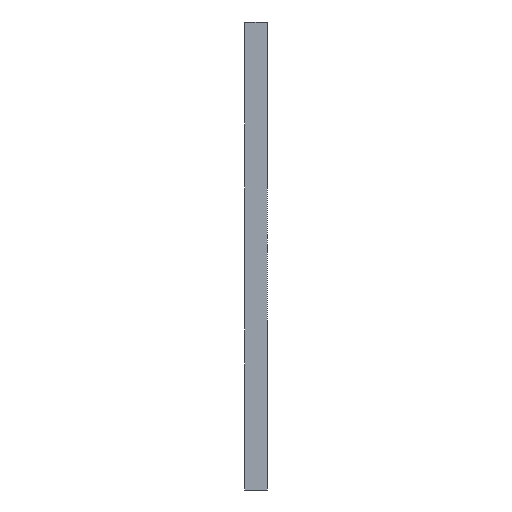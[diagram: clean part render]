
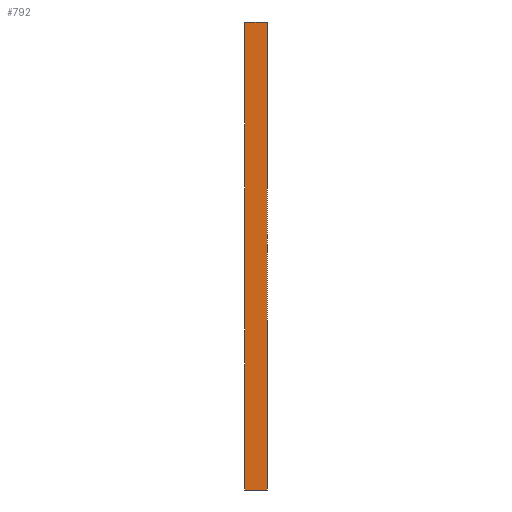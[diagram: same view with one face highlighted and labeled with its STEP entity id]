
A CAD part, left-side view. The second image highlights one B-rep face of the part: STEP entity #792.
In plain terms, the highlighted planar face has unit normal (-1, 0, 0).
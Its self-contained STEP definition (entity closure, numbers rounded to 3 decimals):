
#137 = DIRECTION ( 'NONE',  ( 0., 1., 0. ) ) ;
#142 = VERTEX_POINT ( 'NONE', #1068 ) ;
#199 = VERTEX_POINT ( 'NONE', #280 ) ;
#227 = LINE ( 'NONE', #1094, #773 ) ;
#246 = CARTESIAN_POINT ( 'NONE',  ( -219., -20., -367.5 ) ) ;
#248 = AXIS2_PLACEMENT_3D ( 'NONE', #1046, #606, #265 ) ;
#251 = EDGE_LOOP ( 'NONE', ( #377, #1058, #561, #430 ) ) ;
#260 = LINE ( 'NONE', #246, #916 ) ;
#264 = EDGE_CURVE ( 'NONE', #852, #142, #305, .T. ) ;
#265 = DIRECTION ( 'NONE',  ( 0., 0., 1. ) ) ;
#280 = CARTESIAN_POINT ( 'NONE',  ( -219., 0., -367.5 ) ) ;
#305 = LINE ( 'NONE', #402, #1117 ) ;
#325 = VERTEX_POINT ( 'NONE', #567 ) ;
#377 = ORIENTED_EDGE ( 'NONE', *, *, #712, .F. ) ;
#392 = DIRECTION ( 'NONE',  ( 0., 0., 1. ) ) ;
#402 = CARTESIAN_POINT ( 'NONE',  ( -219., -20., 50. ) ) ;
#423 = EDGE_CURVE ( 'NONE', #325, #199, #260, .T. ) ;
#430 = ORIENTED_EDGE ( 'NONE', *, *, #264, .T. ) ;
#474 = VECTOR ( 'NONE', #539, 1000. ) ;
#539 = DIRECTION ( 'NONE',  ( 0., 0., 1. ) ) ;
#561 = ORIENTED_EDGE ( 'NONE', *, *, #635, .T. ) ;
#567 = CARTESIAN_POINT ( 'NONE',  ( -219., -20., -367.5 ) ) ;
#606 = DIRECTION ( 'NONE',  ( -1., 0., 0. ) ) ;
#635 = EDGE_CURVE ( 'NONE', #325, #852, #227, .T. ) ;
#701 = CARTESIAN_POINT ( 'NONE',  ( -219., -20., 50. ) ) ;
#712 = EDGE_CURVE ( 'NONE', #199, #142, #775, .T. ) ;
#773 = VECTOR ( 'NONE', #392, 1000. ) ;
#775 = LINE ( 'NONE', #1121, #474 ) ;
#792 = ADVANCED_FACE ( 'NONE', ( #1128 ), #929, .T. ) ;
#852 = VERTEX_POINT ( 'NONE', #701 ) ;
#916 = VECTOR ( 'NONE', #937, 1000. ) ;
#929 = PLANE ( 'NONE',  #248 ) ;
#937 = DIRECTION ( 'NONE',  ( 0., 1., 0. ) ) ;
#1046 = CARTESIAN_POINT ( 'NONE',  ( -219., -20., -367.5 ) ) ;
#1058 = ORIENTED_EDGE ( 'NONE', *, *, #423, .F. ) ;
#1068 = CARTESIAN_POINT ( 'NONE',  ( -219., 0., 50. ) ) ;
#1094 = CARTESIAN_POINT ( 'NONE',  ( -219., -20., -367.5 ) ) ;
#1117 = VECTOR ( 'NONE', #137, 1000. ) ;
#1121 = CARTESIAN_POINT ( 'NONE',  ( -219., 0., -367.5 ) ) ;
#1128 = FACE_OUTER_BOUND ( 'NONE', #251, .T. ) ;
